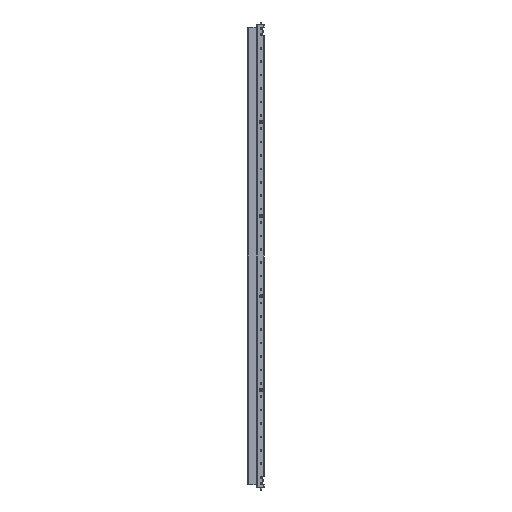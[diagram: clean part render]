
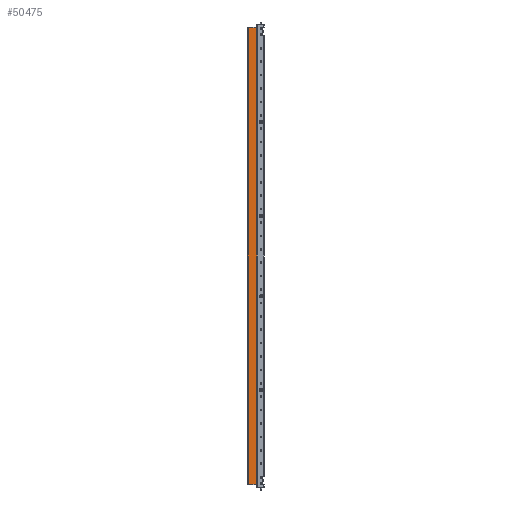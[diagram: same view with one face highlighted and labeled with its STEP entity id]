
A CAD part, front view. The second image highlights one B-rep face of the part: STEP entity #50475.
In plain terms, the highlighted planar face has unit normal (0, -1, 0).
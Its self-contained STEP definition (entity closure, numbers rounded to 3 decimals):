
#28 = CARTESIAN_POINT ( 'NONE',  ( 0.607, -9.122, 2678. ) ) ;
#2218 = DIRECTION ( 'NONE',  ( 0., 0., -1. ) ) ;
#4277 = DIRECTION ( 'NONE',  ( 0., 0., -1. ) ) ;
#5057 = DIRECTION ( 'NONE',  ( 0., 1., 0. ) ) ;
#5328 = FACE_OUTER_BOUND ( 'NONE', #9027, .T. ) ;
#5960 = CARTESIAN_POINT ( 'NONE',  ( -29.693, -9.122, 2690.5 ) ) ;
#8392 = CARTESIAN_POINT ( 'NONE',  ( 2.307, -9.122, 2678. ) ) ;
#9027 = EDGE_LOOP ( 'NONE', ( #16801, #13525, #30116, #45937, #24645, #36524, #33477, #39458 ) ) ;
#9215 = EDGE_CURVE ( 'NONE', #33430, #23309, #17491, .T. ) ;
#9508 = VECTOR ( 'NONE', #46554, 1000. ) ;
#9881 = CARTESIAN_POINT ( 'NONE',  ( -31.293, -9.122, 976. ) ) ;
#12253 = VECTOR ( 'NONE', #49383, 1000. ) ;
#13525 = ORIENTED_EDGE ( 'NONE', *, *, #31629, .F. ) ;
#13685 = CARTESIAN_POINT ( 'NONE',  ( -26.493, -9.122, 976. ) ) ;
#13859 = LINE ( 'NONE', #29437, #9508 ) ;
#14706 = DIRECTION ( 'NONE',  ( -1., 0., 0. ) ) ;
#15236 = LINE ( 'NONE', #23798, #47310 ) ;
#16801 = ORIENTED_EDGE ( 'NONE', *, *, #21514, .T. ) ;
#17491 = LINE ( 'NONE', #45339, #20883 ) ;
#18532 = CARTESIAN_POINT ( 'NONE',  ( -29.693, -9.122, 976. ) ) ;
#20883 = VECTOR ( 'NONE', #33854, 1000. ) ;
#21514 = EDGE_CURVE ( 'NONE', #23309, #44530, #27142, .T. ) ;
#21681 = CARTESIAN_POINT ( 'NONE',  ( -28.193, -9.122, 2690.5 ) ) ;
#21701 = CARTESIAN_POINT ( 'NONE',  ( 2.307, -9.122, 2690.5 ) ) ;
#23309 = VERTEX_POINT ( 'NONE', #30648 ) ;
#23798 = CARTESIAN_POINT ( 'NONE',  ( -28.193, -9.122, 976. ) ) ;
#24645 = ORIENTED_EDGE ( 'NONE', *, *, #31481, .F. ) ;
#25358 = VERTEX_POINT ( 'NONE', #29568 ) ;
#26236 = EDGE_CURVE ( 'NONE', #48826, #43571, #13859, .T. ) ;
#26803 = EDGE_CURVE ( 'NONE', #34765, #29139, #44773, .T. ) ;
#27142 = LINE ( 'NONE', #5960, #48155 ) ;
#29139 = VERTEX_POINT ( 'NONE', #8392 ) ;
#29437 = CARTESIAN_POINT ( 'NONE',  ( -28.193, -9.122, 976. ) ) ;
#29506 = CARTESIAN_POINT ( 'NONE',  ( -31.293, -9.122, 2678. ) ) ;
#29568 = CARTESIAN_POINT ( 'NONE',  ( 2.307, -9.122, 976. ) ) ;
#30116 = ORIENTED_EDGE ( 'NONE', *, *, #26236, .T. ) ;
#30648 = CARTESIAN_POINT ( 'NONE',  ( -29.693, -9.122, 2678. ) ) ;
#31358 = CARTESIAN_POINT ( 'NONE',  ( -26.493, -9.122, 2678. ) ) ;
#31481 = EDGE_CURVE ( 'NONE', #29139, #25358, #41568, .T. ) ;
#31588 = DIRECTION ( 'NONE',  ( 1., 0., 0. ) ) ;
#31629 = EDGE_CURVE ( 'NONE', #48826, #44530, #38579, .T. ) ;
#33430 = VERTEX_POINT ( 'NONE', #31358 ) ;
#33477 = ORIENTED_EDGE ( 'NONE', *, *, #34419, .T. ) ;
#33854 = DIRECTION ( 'NONE',  ( -1., 0., 0. ) ) ;
#34419 = EDGE_CURVE ( 'NONE', #34765, #33430, #45663, .T. ) ;
#34765 = VERTEX_POINT ( 'NONE', #28 ) ;
#36524 = ORIENTED_EDGE ( 'NONE', *, *, #26803, .F. ) ;
#36891 = CARTESIAN_POINT ( 'NONE',  ( 0.607, -9.122, 976. ) ) ;
#38045 = DIRECTION ( 'NONE',  ( 0., 0., 1. ) ) ;
#38579 = LINE ( 'NONE', #9881, #41515 ) ;
#38892 = VECTOR ( 'NONE', #4277, 1000. ) ;
#39458 = ORIENTED_EDGE ( 'NONE', *, *, #9215, .T. ) ;
#41515 = VECTOR ( 'NONE', #14706, 1000. ) ;
#41568 = LINE ( 'NONE', #21701, #38892 ) ;
#41930 = CARTESIAN_POINT ( 'NONE',  ( -28.193, -9.122, 2678. ) ) ;
#43571 = VERTEX_POINT ( 'NONE', #36891 ) ;
#44530 = VERTEX_POINT ( 'NONE', #18532 ) ;
#44773 = LINE ( 'NONE', #29506, #47891 ) ;
#45339 = CARTESIAN_POINT ( 'NONE',  ( -28.193, -9.122, 2678. ) ) ;
#45663 = LINE ( 'NONE', #41930, #12253 ) ;
#45937 = ORIENTED_EDGE ( 'NONE', *, *, #46319, .T. ) ;
#46319 = EDGE_CURVE ( 'NONE', #43571, #25358, #15236, .T. ) ;
#46554 = DIRECTION ( 'NONE',  ( 1., 0., 0. ) ) ;
#47310 = VECTOR ( 'NONE', #31588, 1000. ) ;
#47891 = VECTOR ( 'NONE', #48763, 1000. ) ;
#48155 = VECTOR ( 'NONE', #2218, 1000. ) ;
#48763 = DIRECTION ( 'NONE',  ( 1., 0., 0. ) ) ;
#48826 = VERTEX_POINT ( 'NONE', #13685 ) ;
#49383 = DIRECTION ( 'NONE',  ( -1., 0., 0. ) ) ;
#50078 = PLANE ( 'NONE',  #51830 ) ;
#50475 = ADVANCED_FACE ( 'NONE', ( #5328 ), #50078, .F. ) ;
#51830 = AXIS2_PLACEMENT_3D ( 'NONE', #21681, #5057, #38045 ) ;
